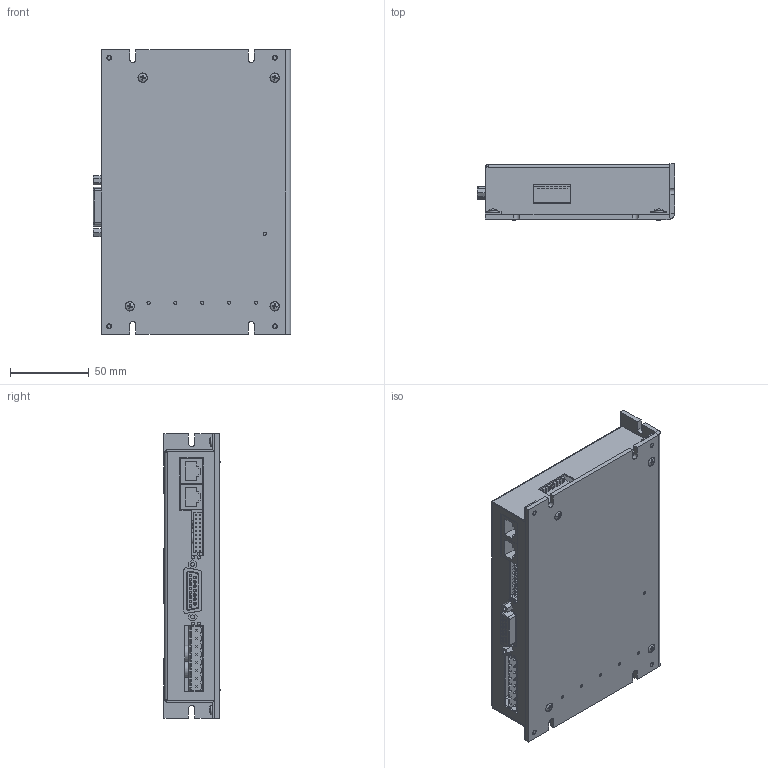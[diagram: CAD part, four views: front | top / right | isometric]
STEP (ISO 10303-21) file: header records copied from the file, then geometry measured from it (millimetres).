
FILE_DESCRIPTION (( 'STEP AP203' ), '1' );
FILE_NAME ('Antriebsregler IMD20 - ArtNr 314030.STEP', '2013-02-25T11:08:18', ( 'test' ), ( 'Microsoft' ), 'SwSTEP 2.0', 'SolidWorks 2012', '' );
FILE_SCHEMA (( 'CONFIG_CONTROL_DESIGN' ));
Length unit declared in the file: millimetre
Products named in the file (1): Antriebsregler IMD20 - ArtNr 314030
Bounding box: 125.06 x 35.49 x 180 mm (x, y, z)
Volume: 193223.6 mm3; surface area: 179291.5 mm2
Topology: 23 solids, 23 shells, 2356 faces, 5615 edges, 3497 vertices
Faces by surface type: plane 1984, cylinder 216, bspline 62, cone 51, torus 25, sphere 18
Full cylindrical faces by diameter (mm): 1.25 x30, 1.75 x15, 2 x18, 2.5 x14, 2.591 x18, 3 x18, 3.048 x4, 3.2 x6, 3.5 x9, 4 x1, 5 x6, 5.08 x2, 5.182 x6, 6 x4, 6.096 x2, 6.858 x1, 7 x2, 8.128 x2, 10.16 x2
Entity records: 68251 total; most frequent: CARTESIAN_POINT 14779, ORIENTED_EDGE 10704, DIRECTION 10484, EDGE_CURVE 5352, VECTOR 4462, LINE 4462, VERTEX_POINT 3446, AXIS2_PLACEMENT_3D 3011
